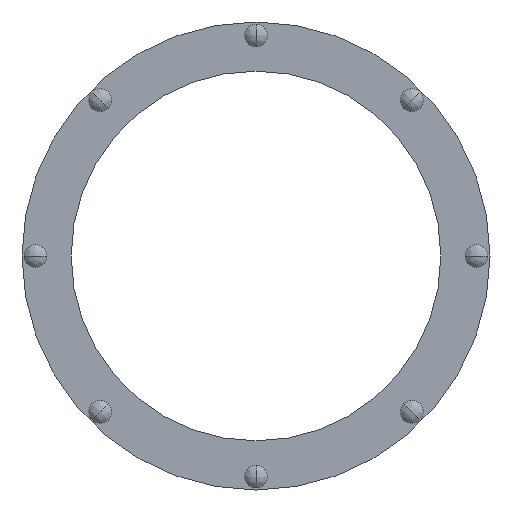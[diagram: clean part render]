
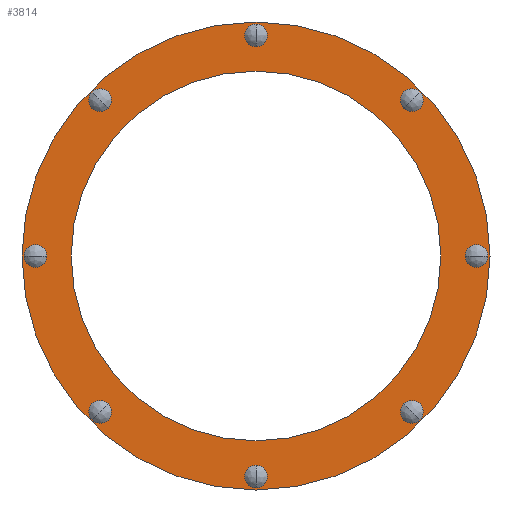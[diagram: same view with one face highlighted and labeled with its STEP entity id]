
A CAD part, front view. The second image highlights one B-rep face of the part: STEP entity #3814.
In plain terms, the highlighted planar face has unit normal (0, -1, 0).
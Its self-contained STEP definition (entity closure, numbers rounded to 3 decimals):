
#1329=CARTESIAN_POINT('',(0.,-151.,0.));
#1330=DIRECTION('',(0.,-1.,0.));
#1331=DIRECTION('',(-1.,0.,0.));
#1332=AXIS2_PLACEMENT_3D('',#1329,#1330,#1331);
#1338=CARTESIAN_POINT('',(0.,-151.,0.));
#1339=DIRECTION('',(0.,1.,0.));
#1340=DIRECTION('',(-1.,0.,0.));
#1341=AXIS2_PLACEMENT_3D('',#1338,#1339,#1340);
#1347=CARTESIAN_POINT('',(0.,-151.,0.));
#1348=DIRECTION('',(0.,-1.,0.));
#1349=DIRECTION('',(-1.,0.,0.));
#1350=AXIS2_PLACEMENT_3D('',#1347,#1348,#1349);
#1352=CARTESIAN_POINT('',(0.,-151.,0.));
#1353=DIRECTION('',(0.,1.,0.));
#1354=DIRECTION('',(-1.,0.,0.));
#1355=AXIS2_PLACEMENT_3D('',#1352,#1353,#1354);
#1357=CARTESIAN_POINT('',(-246.75,-151.,0.));
#1358=DIRECTION('',(0.,1.,0.));
#1359=DIRECTION('',(-1.,0.,0.));
#1360=AXIS2_PLACEMENT_3D('',#1357,#1358,#1359);
#1362=CARTESIAN_POINT('',(-246.75,-151.,0.));
#1363=DIRECTION('',(0.,1.,0.));
#1364=DIRECTION('',(1.,0.,0.));
#1365=AXIS2_PLACEMENT_3D('',#1362,#1363,#1364);
#1367=CARTESIAN_POINT('',(-174.479,-151.,-174.479));
#1368=DIRECTION('',(0.,1.,0.));
#1369=DIRECTION('',(-0.707,0.,-0.707));
#1370=AXIS2_PLACEMENT_3D('',#1367,#1368,#1369);
#1372=CARTESIAN_POINT('',(-174.479,-151.,-174.479));
#1373=DIRECTION('',(0.,1.,0.));
#1374=DIRECTION('',(0.707,0.,0.707));
#1375=AXIS2_PLACEMENT_3D('',#1372,#1373,#1374);
#1377=CARTESIAN_POINT('',(0.,-151.,-246.75));
#1378=DIRECTION('',(0.,1.,0.));
#1379=DIRECTION('',(0.,0.,-1.));
#1380=AXIS2_PLACEMENT_3D('',#1377,#1378,#1379);
#1382=CARTESIAN_POINT('',(0.,-151.,-246.75));
#1383=DIRECTION('',(0.,1.,0.));
#1384=DIRECTION('',(0.,0.,1.));
#1385=AXIS2_PLACEMENT_3D('',#1382,#1383,#1384);
#1387=CARTESIAN_POINT('',(174.479,-151.,-174.479));
#1388=DIRECTION('',(0.,1.,0.));
#1389=DIRECTION('',(0.707,0.,-0.707));
#1390=AXIS2_PLACEMENT_3D('',#1387,#1388,#1389);
#1392=CARTESIAN_POINT('',(174.479,-151.,-174.479));
#1393=DIRECTION('',(0.,1.,0.));
#1394=DIRECTION('',(-0.707,0.,0.707));
#1395=AXIS2_PLACEMENT_3D('',#1392,#1393,#1394);
#1397=CARTESIAN_POINT('',(246.75,-151.,0.));
#1398=DIRECTION('',(0.,1.,0.));
#1399=DIRECTION('',(1.,0.,0.));
#1400=AXIS2_PLACEMENT_3D('',#1397,#1398,#1399);
#1402=CARTESIAN_POINT('',(246.75,-151.,0.));
#1403=DIRECTION('',(0.,1.,0.));
#1404=DIRECTION('',(-1.,0.,0.));
#1405=AXIS2_PLACEMENT_3D('',#1402,#1403,#1404);
#1407=CARTESIAN_POINT('',(174.479,-151.,174.479));
#1408=DIRECTION('',(0.,1.,0.));
#1409=DIRECTION('',(0.707,0.,0.707));
#1410=AXIS2_PLACEMENT_3D('',#1407,#1408,#1409);
#1412=CARTESIAN_POINT('',(174.479,-151.,174.479));
#1413=DIRECTION('',(0.,1.,0.));
#1414=DIRECTION('',(-0.707,0.,-0.707));
#1415=AXIS2_PLACEMENT_3D('',#1412,#1413,#1414);
#1417=CARTESIAN_POINT('',(0.,-151.,246.75));
#1418=DIRECTION('',(0.,1.,0.));
#1419=DIRECTION('',(0.,0.,1.));
#1420=AXIS2_PLACEMENT_3D('',#1417,#1418,#1419);
#1422=CARTESIAN_POINT('',(0.,-151.,246.75));
#1423=DIRECTION('',(0.,1.,0.));
#1424=DIRECTION('',(0.,0.,-1.));
#1425=AXIS2_PLACEMENT_3D('',#1422,#1423,#1424);
#1427=CARTESIAN_POINT('',(-174.479,-151.,174.479));
#1428=DIRECTION('',(0.,1.,0.));
#1429=DIRECTION('',(-0.707,0.,0.707));
#1430=AXIS2_PLACEMENT_3D('',#1427,#1428,#1429);
#1432=CARTESIAN_POINT('',(-174.479,-151.,174.479));
#1433=DIRECTION('',(0.,1.,0.));
#1434=DIRECTION('',(0.707,0.,-0.707));
#1435=AXIS2_PLACEMENT_3D('',#1432,#1433,#1434);
#2627=CARTESIAN_POINT('',(-261.75,-151.,0.));
#2629=VERTEX_POINT('',#2627);
#2630=CARTESIAN_POINT('',(-206.75,-151.,0.));
#2632=VERTEX_POINT('',#2630);
#2645=CARTESIAN_POINT('',(261.75,-151.,0.));
#2647=VERTEX_POINT('',#2645);
#2648=CARTESIAN_POINT('',(206.75,-151.,0.));
#2650=VERTEX_POINT('',#2648);
#2718=CARTESIAN_POINT('',(-259.5,-151.,0.));
#2719=VERTEX_POINT('',#2718);
#2720=CARTESIAN_POINT('',(-234.,-151.,0.));
#2721=VERTEX_POINT('',#2720);
#2760=CARTESIAN_POINT('',(-183.494,-151.,-183.494));
#2761=VERTEX_POINT('',#2760);
#2762=CARTESIAN_POINT('',(-165.463,-151.,-165.463));
#2763=VERTEX_POINT('',#2762);
#2802=CARTESIAN_POINT('',(0.,-151.,-259.5));
#2803=VERTEX_POINT('',#2802);
#2804=CARTESIAN_POINT('',(0.,-151.,-234.));
#2805=VERTEX_POINT('',#2804);
#2844=CARTESIAN_POINT('',(183.494,-151.,-183.494));
#2845=VERTEX_POINT('',#2844);
#2846=CARTESIAN_POINT('',(165.463,-151.,-165.463));
#2847=VERTEX_POINT('',#2846);
#2886=CARTESIAN_POINT('',(259.5,-151.,0.));
#2887=VERTEX_POINT('',#2886);
#2888=CARTESIAN_POINT('',(234.,-151.,0.));
#2889=VERTEX_POINT('',#2888);
#2928=CARTESIAN_POINT('',(183.494,-151.,183.494));
#2929=VERTEX_POINT('',#2928);
#2930=CARTESIAN_POINT('',(165.463,-151.,165.463));
#2931=VERTEX_POINT('',#2930);
#2990=CARTESIAN_POINT('',(0.,-151.,259.5));
#2991=VERTEX_POINT('',#2990);
#2992=CARTESIAN_POINT('',(0.,-151.,234.));
#2993=VERTEX_POINT('',#2992);
#3032=CARTESIAN_POINT('',(-183.494,-151.,183.494));
#3033=VERTEX_POINT('',#3032);
#3034=CARTESIAN_POINT('',(-165.463,-151.,165.463));
#3035=VERTEX_POINT('',#3034);
#3751=CARTESIAN_POINT('',(0.,-151.,0.));
#3752=DIRECTION('',(0.,-1.,0.));
#3753=DIRECTION('',(-1.,0.,0.));
#3754=AXIS2_PLACEMENT_3D('',#3751,#3752,#3753);
#3755=PLANE('',#3754);
#3757=ORIENTED_EDGE('',*,*,#3756,.F.);
#3759=ORIENTED_EDGE('',*,*,#3758,.T.);
#3760=EDGE_LOOP('',(#3757,#3759));
#3761=FACE_OUTER_BOUND('',#3760,.F.);
#3762=ORIENTED_EDGE('',*,*,#3744,.F.);
#3763=ORIENTED_EDGE('',*,*,#3733,.T.);
#3764=EDGE_LOOP('',(#3762,#3763));
#3765=FACE_BOUND('',#3764,.F.);
#3767=ORIENTED_EDGE('',*,*,#3766,.F.);
#3769=ORIENTED_EDGE('',*,*,#3768,.F.);
#3770=EDGE_LOOP('',(#3767,#3769));
#3771=FACE_BOUND('',#3770,.F.);
#3773=ORIENTED_EDGE('',*,*,#3772,.F.);
#3775=ORIENTED_EDGE('',*,*,#3774,.F.);
#3776=EDGE_LOOP('',(#3773,#3775));
#3777=FACE_BOUND('',#3776,.F.);
#3779=ORIENTED_EDGE('',*,*,#3778,.F.);
#3781=ORIENTED_EDGE('',*,*,#3780,.F.);
#3782=EDGE_LOOP('',(#3779,#3781));
#3783=FACE_BOUND('',#3782,.F.);
#3785=ORIENTED_EDGE('',*,*,#3784,.F.);
#3787=ORIENTED_EDGE('',*,*,#3786,.F.);
#3788=EDGE_LOOP('',(#3785,#3787));
#3789=FACE_BOUND('',#3788,.F.);
#3791=ORIENTED_EDGE('',*,*,#3790,.F.);
#3793=ORIENTED_EDGE('',*,*,#3792,.F.);
#3794=EDGE_LOOP('',(#3791,#3793));
#3795=FACE_BOUND('',#3794,.F.);
#3797=ORIENTED_EDGE('',*,*,#3796,.F.);
#3799=ORIENTED_EDGE('',*,*,#3798,.F.);
#3800=EDGE_LOOP('',(#3797,#3799));
#3801=FACE_BOUND('',#3800,.F.);
#3803=ORIENTED_EDGE('',*,*,#3802,.F.);
#3805=ORIENTED_EDGE('',*,*,#3804,.F.);
#3806=EDGE_LOOP('',(#3803,#3805));
#3807=FACE_BOUND('',#3806,.F.);
#3809=ORIENTED_EDGE('',*,*,#3808,.F.);
#3811=ORIENTED_EDGE('',*,*,#3810,.F.);
#3812=EDGE_LOOP('',(#3809,#3811));
#3813=FACE_BOUND('',#3812,.F.);
#3814=ADVANCED_FACE('',(#3761,#3765,#3771,#3777,#3783,#3789,#3795,#3801,#3807,
#3813),#3755,.T.);
#1333=CIRCLE('',#1332,206.75);
#1342=CIRCLE('',#1341,206.75);
#1351=CIRCLE('',#1350,261.75);
#1356=CIRCLE('',#1355,261.75);
#1361=CIRCLE('',#1360,12.75);
#1366=CIRCLE('',#1365,12.75);
#1371=CIRCLE('',#1370,12.75);
#1376=CIRCLE('',#1375,12.75);
#1381=CIRCLE('',#1380,12.75);
#1386=CIRCLE('',#1385,12.75);
#1391=CIRCLE('',#1390,12.75);
#1396=CIRCLE('',#1395,12.75);
#1401=CIRCLE('',#1400,12.75);
#1406=CIRCLE('',#1405,12.75);
#1411=CIRCLE('',#1410,12.75);
#1416=CIRCLE('',#1415,12.75);
#1421=CIRCLE('',#1420,12.75);
#1426=CIRCLE('',#1425,12.75);
#1431=CIRCLE('',#1430,12.75);
#1436=CIRCLE('',#1435,12.75);
#3733=EDGE_CURVE('',#2632,#2650,#1333,.T.);
#3744=EDGE_CURVE('',#2632,#2650,#1342,.T.);
#3756=EDGE_CURVE('',#2629,#2647,#1351,.T.);
#3758=EDGE_CURVE('',#2629,#2647,#1356,.T.);
#3766=EDGE_CURVE('',#2719,#2721,#1361,.T.);
#3768=EDGE_CURVE('',#2721,#2719,#1366,.T.);
#3772=EDGE_CURVE('',#2761,#2763,#1371,.T.);
#3774=EDGE_CURVE('',#2763,#2761,#1376,.T.);
#3778=EDGE_CURVE('',#2803,#2805,#1381,.T.);
#3780=EDGE_CURVE('',#2805,#2803,#1386,.T.);
#3784=EDGE_CURVE('',#2845,#2847,#1391,.T.);
#3786=EDGE_CURVE('',#2847,#2845,#1396,.T.);
#3790=EDGE_CURVE('',#2887,#2889,#1401,.T.);
#3792=EDGE_CURVE('',#2889,#2887,#1406,.T.);
#3796=EDGE_CURVE('',#2929,#2931,#1411,.T.);
#3798=EDGE_CURVE('',#2931,#2929,#1416,.T.);
#3802=EDGE_CURVE('',#2991,#2993,#1421,.T.);
#3804=EDGE_CURVE('',#2993,#2991,#1426,.T.);
#3808=EDGE_CURVE('',#3033,#3035,#1431,.T.);
#3810=EDGE_CURVE('',#3035,#3033,#1436,.T.);
